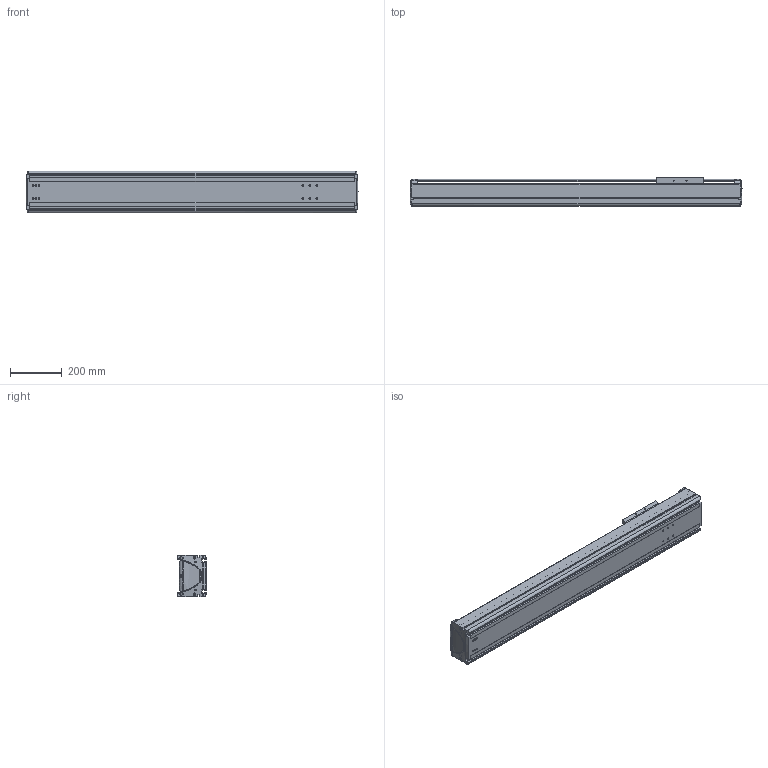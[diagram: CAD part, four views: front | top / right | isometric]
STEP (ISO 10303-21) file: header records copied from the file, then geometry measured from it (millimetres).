
FILE_DESCRIPTION((''),'2;1');
FILE_NAME('BE50G-ST-M_N-90_IGS_PRT','2017-06-18T',(' '),(''),'PRO/ENGINEER BY PARAMETRIC TECHNOLOGY CORPORATION, 2015030','PRO/ENGINEER BY PARAMETRIC TECHNOLOGY CORPORATION, 2015030','');
FILE_SCHEMA(('CONFIG_CONTROL_DESIGN'));
Length unit declared in the file: millimetre
Products named in the file (1): BE50G-ST-M_N-90_IGS_PRT
Bounding box: 1279.98 x 110 x 160 mm (x, y, z)
Volume: 5725699.3 mm3; surface area: 1950049.4 mm2
Topology: 2 solids, 85 shells, 1622 faces, 4302 edges, 2755 vertices
Faces by surface type: cylinder 702, plane 623, bspline 102, torus 87, cone 68, sphere 40
Entity records: 55759 total; most frequent: CARTESIAN_POINT 16008, ORIENTED_EDGE 8196, DIRECTION 8128, EDGE_CURVE 4264, AXIS2_PLACEMENT_3D 3028, VERTEX_POINT 2743, VECTOR 2072, LINE 2072
